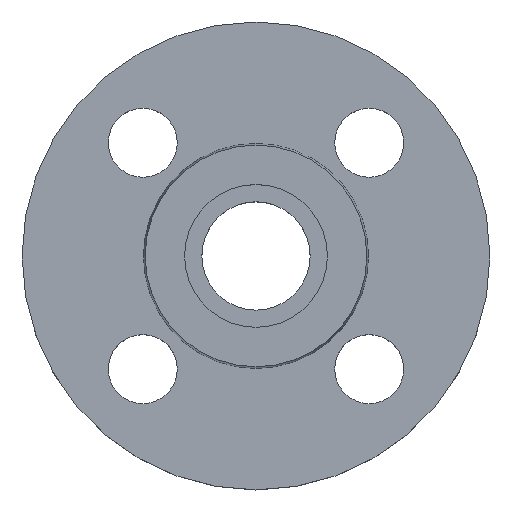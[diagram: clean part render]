
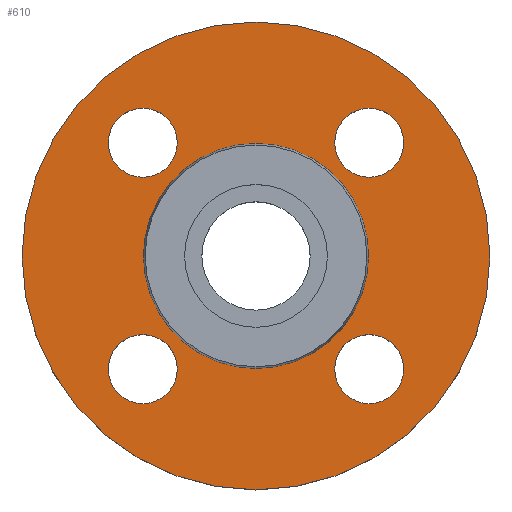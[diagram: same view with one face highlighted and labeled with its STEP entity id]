
A CAD part, top view. The second image highlights one B-rep face of the part: STEP entity #610.
In plain terms, the highlighted planar face has unit normal (0, 0, 1).
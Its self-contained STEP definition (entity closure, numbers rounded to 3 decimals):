
#12 = CIRCLE ( 'NONE', #702, 7. ) ;
#18 = CIRCLE ( 'NONE', #324, 22.853 ) ;
#33 = AXIS2_PLACEMENT_3D ( 'NONE', #248, #261, #269 ) ;
#41 = EDGE_CURVE ( 'NONE', #515, #655, #333, .T. ) ;
#44 = EDGE_CURVE ( 'NONE', #467, #402, #18, .T. ) ;
#48 = AXIS2_PLACEMENT_3D ( 'NONE', #202, #204, #199 ) ;
#50 = DIRECTION ( 'NONE',  ( 1., 0., 0. ) ) ;
#52 = DIRECTION ( 'NONE',  ( 0., 0., -1. ) ) ;
#53 = CARTESIAN_POINT ( 'NONE',  ( -22.981, 22.981, -2. ) ) ;
#62 = CIRCLE ( 'NONE', #64, 7. ) ;
#64 = AXIS2_PLACEMENT_3D ( 'NONE', #151, #150, #149 ) ;
#106 = AXIS2_PLACEMENT_3D ( 'NONE', #53, #52, #50 ) ;
#107 = AXIS2_PLACEMENT_3D ( 'NONE', #126, #124, #121 ) ;
#108 = CIRCLE ( 'NONE', #107, 22.853 ) ;
#121 = DIRECTION ( 'NONE',  ( -1., 0., 0. ) ) ;
#124 = DIRECTION ( 'NONE',  ( 0., 0., -1. ) ) ;
#126 = CARTESIAN_POINT ( 'NONE',  ( 0., 0., -2. ) ) ;
#149 = DIRECTION ( 'NONE',  ( 1., 0., 0. ) ) ;
#150 = DIRECTION ( 'NONE',  ( 0., 0., -1. ) ) ;
#151 = CARTESIAN_POINT ( 'NONE',  ( 22.981, -22.981, -2. ) ) ;
#156 = CARTESIAN_POINT ( 'NONE',  ( -47.5, 0., -2. ) ) ;
#158 = DIRECTION ( 'NONE',  ( 1., 0., 0. ) ) ;
#164 = DIRECTION ( 'NONE',  ( 0., 0., -1. ) ) ;
#165 = CARTESIAN_POINT ( 'NONE',  ( 22.981, 22.981, -2. ) ) ;
#168 = CARTESIAN_POINT ( 'NONE',  ( 15.981, -22.981, -2. ) ) ;
#172 = AXIS2_PLACEMENT_3D ( 'NONE', #596, #597, #599 ) ;
#194 = CARTESIAN_POINT ( 'NONE',  ( 15.981, 22.981, -2. ) ) ;
#199 = DIRECTION ( 'NONE',  ( 1., 0., 0. ) ) ;
#200 = FACE_BOUND ( 'NONE', #613, .T. ) ;
#202 = CARTESIAN_POINT ( 'NONE',  ( 22.853, 0., -2. ) ) ;
#204 = DIRECTION ( 'NONE',  ( 0., 0., 1. ) ) ;
#205 = PLANE ( 'NONE',  #48 ) ;
#208 = FACE_OUTER_BOUND ( 'NONE', #612, .T. ) ;
#216 = CARTESIAN_POINT ( 'NONE',  ( 29.981, 22.981, -2. ) ) ;
#221 = AXIS2_PLACEMENT_3D ( 'NONE', #690, #693, #694 ) ;
#234 = FACE_BOUND ( 'NONE', #440, .T. ) ;
#248 = CARTESIAN_POINT ( 'NONE',  ( -22.981, -22.981, -2. ) ) ;
#252 = CARTESIAN_POINT ( 'NONE',  ( 47.5, 0., -2. ) ) ;
#261 = DIRECTION ( 'NONE',  ( 0., 0., -1. ) ) ;
#263 = CARTESIAN_POINT ( 'NONE',  ( -22.981, 22.981, -2. ) ) ;
#269 = DIRECTION ( 'NONE',  ( 1., 0., 0. ) ) ;
#273 = DIRECTION ( 'NONE',  ( 1., 0., 0. ) ) ;
#283 = CARTESIAN_POINT ( 'NONE',  ( -22.981, -22.981, -2. ) ) ;
#284 = CIRCLE ( 'NONE', #328, 7. ) ;
#286 = FACE_BOUND ( 'NONE', #397, .T. ) ;
#287 = FACE_BOUND ( 'NONE', #659, .T. ) ;
#289 = EDGE_CURVE ( 'NONE', #615, #415, #640, .T. ) ;
#290 = DIRECTION ( 'NONE',  ( 0., 0., -1. ) ) ;
#295 = DIRECTION ( 'NONE',  ( 1., 0., 0. ) ) ;
#302 = CARTESIAN_POINT ( 'NONE',  ( 22.981, -22.981, -2. ) ) ;
#312 = DIRECTION ( 'NONE',  ( 0., 0., -1. ) ) ;
#317 = DIRECTION ( 'NONE',  ( 1., 0., 0. ) ) ;
#324 = AXIS2_PLACEMENT_3D ( 'NONE', #695, #698, #699 ) ;
#328 = AXIS2_PLACEMENT_3D ( 'NONE', #165, #164, #158 ) ;
#330 = EDGE_CURVE ( 'NONE', #463, #574, #502, .T. ) ;
#333 = CIRCLE ( 'NONE', #221, 47.5 ) ;
#340 = EDGE_CURVE ( 'NONE', #383, #641, #367, .T. ) ;
#346 = AXIS2_PLACEMENT_3D ( 'NONE', #283, #290, #295 ) ;
#352 = CIRCLE ( 'NONE', #33, 7. ) ;
#367 = CIRCLE ( 'NONE', #747, 7. ) ;
#383 = VERTEX_POINT ( 'NONE', #438 ) ;
#397 = EDGE_LOOP ( 'NONE', ( #507, #510 ) ) ;
#402 = VERTEX_POINT ( 'NONE', #552 ) ;
#411 = VERTEX_POINT ( 'NONE', #584 ) ;
#415 = VERTEX_POINT ( 'NONE', #216 ) ;
#438 = CARTESIAN_POINT ( 'NONE',  ( 29.981, -22.981, -2. ) ) ;
#440 = EDGE_LOOP ( 'NONE', ( #516, #517 ) ) ;
#449 = CIRCLE ( 'NONE', #106, 7. ) ;
#451 = EDGE_CURVE ( 'NONE', #655, #515, #685, .T. ) ;
#463 = VERTEX_POINT ( 'NONE', #625 ) ;
#467 = VERTEX_POINT ( 'NONE', #630 ) ;
#501 = EDGE_CURVE ( 'NONE', #411, #649, #12, .T. ) ;
#502 = CIRCLE ( 'NONE', #346, 7. ) ;
#504 = ORIENTED_EDGE ( 'NONE', *, *, #340, .T. ) ;
#506 = ORIENTED_EDGE ( 'NONE', *, *, #662, .T. ) ;
#507 = ORIENTED_EDGE ( 'NONE', *, *, #535, .T. ) ;
#510 = ORIENTED_EDGE ( 'NONE', *, *, #330, .T. ) ;
#511 = ORIENTED_EDGE ( 'NONE', *, *, #791, .T. ) ;
#514 = ORIENTED_EDGE ( 'NONE', *, *, #501, .T. ) ;
#515 = VERTEX_POINT ( 'NONE', #252 ) ;
#516 = ORIENTED_EDGE ( 'NONE', *, *, #647, .T. ) ;
#517 = ORIENTED_EDGE ( 'NONE', *, *, #289, .T. ) ;
#519 = ORIENTED_EDGE ( 'NONE', *, *, #44, .T. ) ;
#524 = ORIENTED_EDGE ( 'NONE', *, *, #708, .T. ) ;
#525 = ORIENTED_EDGE ( 'NONE', *, *, #41, .F. ) ;
#526 = ORIENTED_EDGE ( 'NONE', *, *, #451, .F. ) ;
#535 = EDGE_CURVE ( 'NONE', #574, #463, #352, .T. ) ;
#552 = CARTESIAN_POINT ( 'NONE',  ( 22.853, 0., -2. ) ) ;
#574 = VERTEX_POINT ( 'NONE', #762 ) ;
#584 = CARTESIAN_POINT ( 'NONE',  ( -29.981, 22.981, -2. ) ) ;
#596 = CARTESIAN_POINT ( 'NONE',  ( 0., 0., -2. ) ) ;
#597 = DIRECTION ( 'NONE',  ( 0., 0., -1. ) ) ;
#599 = DIRECTION ( 'NONE',  ( -1., 0., 0. ) ) ;
#610 = ADVANCED_FACE ( 'NONE', ( #706, #286, #287, #234, #200, #208 ), #205, .T. ) ;
#612 = EDGE_LOOP ( 'NONE', ( #525, #526 ) ) ;
#613 = EDGE_LOOP ( 'NONE', ( #519, #524 ) ) ;
#615 = VERTEX_POINT ( 'NONE', #194 ) ;
#625 = CARTESIAN_POINT ( 'NONE',  ( -29.981, -22.981, -2. ) ) ;
#630 = CARTESIAN_POINT ( 'NONE',  ( -22.853, 0., -2. ) ) ;
#637 = AXIS2_PLACEMENT_3D ( 'NONE', #801, #802, #742 ) ;
#640 = CIRCLE ( 'NONE', #637, 7. ) ;
#641 = VERTEX_POINT ( 'NONE', #168 ) ;
#647 = EDGE_CURVE ( 'NONE', #415, #615, #284, .T. ) ;
#649 = VERTEX_POINT ( 'NONE', #650 ) ;
#650 = CARTESIAN_POINT ( 'NONE',  ( -15.981, 22.981, -2. ) ) ;
#655 = VERTEX_POINT ( 'NONE', #156 ) ;
#659 = EDGE_LOOP ( 'NONE', ( #511, #514 ) ) ;
#662 = EDGE_CURVE ( 'NONE', #641, #383, #62, .T. ) ;
#669 = EDGE_LOOP ( 'NONE', ( #504, #506 ) ) ;
#685 = CIRCLE ( 'NONE', #172, 47.5 ) ;
#690 = CARTESIAN_POINT ( 'NONE',  ( 0., 0., -2. ) ) ;
#693 = DIRECTION ( 'NONE',  ( 0., 0., -1. ) ) ;
#694 = DIRECTION ( 'NONE',  ( -1., 0., 0. ) ) ;
#695 = CARTESIAN_POINT ( 'NONE',  ( 0., 0., -2. ) ) ;
#698 = DIRECTION ( 'NONE',  ( 0., 0., -1. ) ) ;
#699 = DIRECTION ( 'NONE',  ( -1., 0., 0. ) ) ;
#702 = AXIS2_PLACEMENT_3D ( 'NONE', #263, #788, #273 ) ;
#706 = FACE_BOUND ( 'NONE', #669, .T. ) ;
#708 = EDGE_CURVE ( 'NONE', #402, #467, #108, .T. ) ;
#742 = DIRECTION ( 'NONE',  ( 1., 0., 0. ) ) ;
#747 = AXIS2_PLACEMENT_3D ( 'NONE', #302, #312, #317 ) ;
#762 = CARTESIAN_POINT ( 'NONE',  ( -15.981, -22.981, -2. ) ) ;
#788 = DIRECTION ( 'NONE',  ( 0., 0., -1. ) ) ;
#791 = EDGE_CURVE ( 'NONE', #649, #411, #449, .T. ) ;
#801 = CARTESIAN_POINT ( 'NONE',  ( 22.981, 22.981, -2. ) ) ;
#802 = DIRECTION ( 'NONE',  ( 0., 0., -1. ) ) ;
